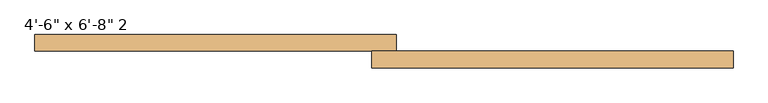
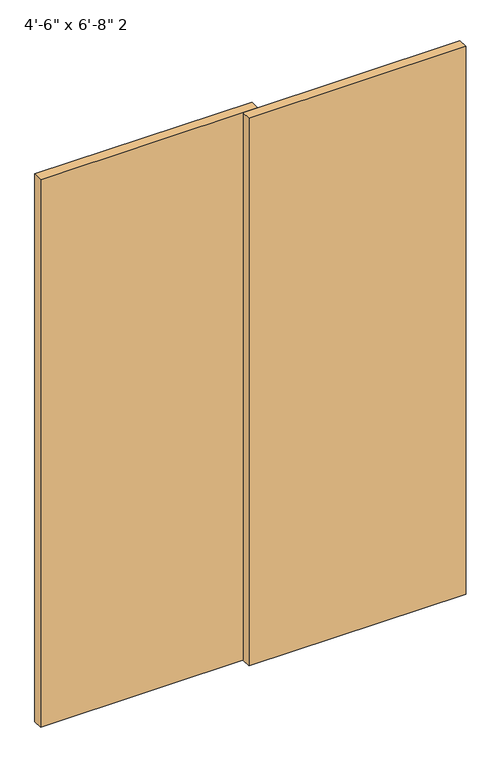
"""IFC4 building model written with IfcOpenShell, lengths in millimetres: door geometry."""

import ifcopenshell
import ifcopenshell.guid

model = None  # the IFC model being written
_history = None  # IfcOwnerHistory: only IFC2X3 demands one
_inside = {}  # id of a spatial element -> (the spatial element, [elements in it])
_under = {}  # id of a project, library or spatial element -> (it, [spatial elements below it])
_declared = {}  # id of a project -> (the project, [libraries it declares])
_typed = {}  # id of a type object -> (the type object, [elements of that type])
_made_of = {}  # id of a material, layer set ... -> (it, [elements and type objects made of it])


def new_model(schema):
    """Start an empty IFC model of exactly this schema.

    Asked for "IFC4X3", IfcOpenShell would pick the latest addendum, in which some entities
    have other attributes; the version numbers below select the first issue.
    IFC2X3 requires an IfcOwnerHistory on every rooted entity: one is made here for all.
    """
    global model, _history
    if schema == "IFC4X3":
        model = ifcopenshell.file(schema_version=(4, 3, 0, 0))
    else:
        model = ifcopenshell.file(schema=schema)
    _inside.clear()
    _under.clear()
    _declared.clear()
    _typed.clear()
    _made_of.clear()
    _history = None
    if model.schema == "IFC2X3":
        org = make("IfcOrganization", Name="unknown")
        user = make(
            "IfcPersonAndOrganization",
            ThePerson=make("IfcPerson", FamilyName="unknown"),
            TheOrganization=org,
        )
        app = make(
            "IfcApplication",
            ApplicationDeveloper=org,
            Version="unknown",
            ApplicationFullName="unknown",
            ApplicationIdentifier="unknown",
        )
        _history = make(
            "IfcOwnerHistory",
            OwningUser=user,
            OwningApplication=app,
            ChangeAction="ADDED",
            CreationDate=0,
        )
    return model


def make(cls, **values):
    """One entity of the class cls with the attributes given. An attribute that is None is left unset."""
    return model.create_entity(
        cls, **{name: value for name, value in values.items() if value is not None}
    )


def rooted(cls, **values):
    """An entity with a GlobalId (a new one), such as an element, a storey or a relation."""
    return make(cls, GlobalId=ifcopenshell.guid.new(), OwnerHistory=_history, **values)


def si_unit(unit_type, name, prefix=None):
    """IfcSIUnit, for example si_unit("LENGTHUNIT", "METRE", prefix="MILLI")."""
    return make("IfcSIUnit", UnitType=unit_type, Prefix=prefix, Name=name)


def assignment(units):
    """IfcUnitAssignment: the units of a project."""
    return None if units is None else make("IfcUnitAssignment", Units=units)


def point(xyz):
    """IfcCartesianPoint."""
    return None if xyz is None else make("IfcCartesianPoint", Coordinates=xyz)


def direction(xyz):
    """IfcDirection."""
    return None if xyz is None else make("IfcDirection", DirectionRatios=xyz)


def frame(location, z_axis=None, x_axis=None):
    """IfcAxis2Placement3D, a coordinate frame: its origin and axes. An axis left out is left unset."""
    return make(
        "IfcAxis2Placement3D",
        Location=point(location),
        Axis=direction(z_axis),
        RefDirection=direction(x_axis),
    )


def origin():
    """The frame at (0, 0, 0) with its axes left unset."""
    return frame((0.0, 0.0, 0.0))


def origin_with_axes():
    """The frame at (0, 0, 0) with the z axis (0, 0, 1) and the x axis (1, 0, 0) written out."""
    return frame((0.0, 0.0, 0.0), z_axis=(0.0, 0.0, 1.0), x_axis=(1.0, 0.0, 0.0))


def place(relative_to, where):
    """IfcLocalPlacement: puts the frame where relative to a parent placement (None: the world)."""
    return make(
        "IfcLocalPlacement", PlacementRelTo=relative_to, RelativePlacement=where
    )


def context(
    kind, dimensions, precision=None, world=None, true_north=None, identifier=None
):
    """IfcGeometricRepresentationContext, for example the 3D "Model" context."""
    return make(
        "IfcGeometricRepresentationContext",
        ContextIdentifier=identifier,
        ContextType=kind,
        CoordinateSpaceDimension=dimensions,
        Precision=precision,
        WorldCoordinateSystem=world,
        TrueNorth=true_north,
    )


def project(units=None, contexts=None):
    """IfcProject with its units and contexts."""
    return rooted(
        "IfcProject",
        Name="project",
        RepresentationContexts=contexts,
        UnitsInContext=assignment(units),
    )


def spatial(cls, under=None, at=None, **own):
    """A site, building, storey or space (cls), placed at a placement, below another one or the project."""
    s = rooted(cls, ObjectPlacement=at, **own)
    if under is not None:
        _under.setdefault(under.id(), (under, []))[1].append(s)
    return s


def polyline(points):
    """IfcPolyline through the points."""
    return make("IfcPolyline", Points=[point(p) for p in points])


def outline(outer, holes=None, kind="AREA"):
    """IfcArbitraryClosedProfileDef: a profile drawn as a closed curve; with holes, ...WithVoids."""
    if holes is None:
        return make("IfcArbitraryClosedProfileDef", ProfileType=kind, OuterCurve=outer)
    return make(
        "IfcArbitraryProfileDefWithVoids",
        ProfileType=kind,
        OuterCurve=outer,
        InnerCurves=holes,
    )


def extrude(swept, where, along, depth):
    """IfcExtrudedAreaSolid: the profile swept, set in the frame where, extruded along a direction by depth."""
    return make(
        "IfcExtrudedAreaSolid",
        SweptArea=swept,
        Position=where,
        ExtrudedDirection=direction(along),
        Depth=depth,
    )


def shape(context_of_items, identifier, shape_type, items):
    """IfcShapeRepresentation: the items that make up one representation, for example the "Body"."""
    return make(
        "IfcShapeRepresentation",
        ContextOfItems=context_of_items,
        RepresentationIdentifier=identifier,
        RepresentationType=shape_type,
        Items=items,
    )


def source(mapping_origin, context_of_items, identifier, shape_type, items):
    """IfcRepresentationMap: a shape defined once, which mapped items show again and again."""
    return make(
        "IfcRepresentationMap",
        MappingOrigin=mapping_origin,
        MappedRepresentation=shape(context_of_items, identifier, shape_type, items),
    )


def transform(
    local_origin,
    x_axis=None,
    y_axis=None,
    z_axis=None,
    scale=None,
    scale2=None,
    scale3=None,
    uniform=True,
):
    """IfcCartesianTransformationOperator3D, or its non-uniform kind. x_axis, y_axis, z_axis: its Axis1, 2, 3."""
    if uniform:
        return make(
            "IfcCartesianTransformationOperator3D",
            Axis1=direction(x_axis),
            Axis2=direction(y_axis),
            LocalOrigin=point(local_origin),
            Scale=scale,
            Axis3=direction(z_axis),
        )
    return make(
        "IfcCartesianTransformationOperator3DnonUniform",
        Axis1=direction(x_axis),
        Axis2=direction(y_axis),
        LocalOrigin=point(local_origin),
        Scale=scale,
        Axis3=direction(z_axis),
        Scale2=scale2,
        Scale3=scale3,
    )


def mapped(mapping_source, mapping_target):
    """IfcMappedItem: shows the shape of a source again, moved by a transform."""
    return make(
        "IfcMappedItem", MappingSource=mapping_source, MappingTarget=mapping_target
    )


def made_of(thing, what):
    """Note that an element or type object is made of a material, layer set ...; save() writes the relation."""
    if what is not None:
        _made_of.setdefault(what.id(), (what, []))[1].append(thing)
    return thing


def element(
    cls,
    number,
    at=None,
    inside=None,
    cuts=None,
    type_object=None,
    material=None,
    context=None,
    identifier="Body",
    shape_type=None,
    held_by="IfcProductDefinitionShape",
    body=None,
    shapes=None,
    **own,
):
    """One element of the class cls, such as IfcWall. Its Tag is "e" and its number.

    at: its placement. inside: the storey or other place that contains it. cuts: it is an
    opening in that element (IfcRelVoidsElement). A single representation is given by context,
    identifier, shape_type and body (its items); several are given by shapes. held_by: the class
    of the entity that holds the representations. save() writes the other relations.
    """
    e = rooted(cls, Tag="e%d" % number, ObjectPlacement=at, **own)
    if body is not None:
        shapes = [shape(context, identifier, shape_type, body)]
    if shapes is not None:
        e.Representation = make(held_by, Representations=shapes)
    if inside is not None:
        _inside.setdefault(inside.id(), (inside, []))[1].append(e)
    if cuts is not None:
        rooted(
            "IfcRelVoidsElement", RelatingBuildingElement=cuts, RelatedOpeningElement=e
        )
    if type_object is not None:
        _typed.setdefault(type_object.id(), (type_object, []))[1].append(e)
    return made_of(e, material)


def aggregate(whole, parts):
    """IfcRelAggregates: a whole, such as a stair, and the parts it consists of."""
    return rooted("IfcRelAggregates", RelatingObject=whole, RelatedObjects=parts)


def save(model, path):
    """Write the relations noted so far, then the file.

    IfcRelAggregates (storeys below a building ...), IfcRelContainedInSpatialStructure (elements
    in a storey), IfcRelDefinesByType, IfcRelAssociatesMaterial and IfcRelDeclares: one each for
    every whole, place, type object, material and project.
    """
    for whole, parts in _under.values():
        aggregate(whole, parts)
    for where, things in _inside.values():
        rooted(
            "IfcRelContainedInSpatialStructure",
            RelatedElements=things,
            RelatingStructure=where,
        )
    for kind, things in _typed.values():
        rooted("IfcRelDefinesByType", RelatedObjects=things, RelatingType=kind)
    for what, things in _made_of.values():
        rooted("IfcRelAssociatesMaterial", RelatedObjects=things, RelatingMaterial=what)
    for by, libraries in _declared.values():
        rooted("IfcRelDeclares", RelatingContext=by, RelatedDefinitions=libraries)
    model.write(path)


def door_2d0d1de0(model_context):
    return source(origin(), model_context, "Body", "SweptSolid", [
        extrude(outline(polyline([(736.6, 18.975), (736.6, -16.025), (-25.4, -16.025), (-25.4, 18.975), (736.6, 18.975)])), origin_with_axes(), (0.0, 0.0, 1.0), 2032.0),
        extrude(outline(polyline([(25.4, 53.975), (25.4, 18.975), (-736.6, 18.975), (-736.6, 53.975), (25.4, 53.975)])), origin_with_axes(), (0.0, 0.0, 1.0), 2032.0),
    ])


if __name__ == "__main__":
    model = new_model("IFC4")
    model_context = context("Model", 3, world=origin())
    ifc_project = project(units=[si_unit("LENGTHUNIT", "METRE", prefix="MILLI")], contexts=[model_context])
    site = spatial("IfcSite", under=ifc_project)
    building = spatial("IfcBuilding", under=site)
    placement = place(None, origin())
    door_shape = door_2d0d1de0(model_context)
    element("IfcDoor", 1, ObjectType="Planitar - Double Sliding Door_Flush Panel : 4'-6\" x 6'-8\" 2", at=placement, inside=building, context=model_context, shape_type="MappedRepresentation", body=[
        mapped(door_shape, transform((0.0, 0.0, 0.0), x_axis=(1.0, 0.0, 0.0), y_axis=(0.0, 1.0, 0.0), z_axis=(0.0, 0.0, 1.0))),
    ])
    save(model, "model.ifc")
